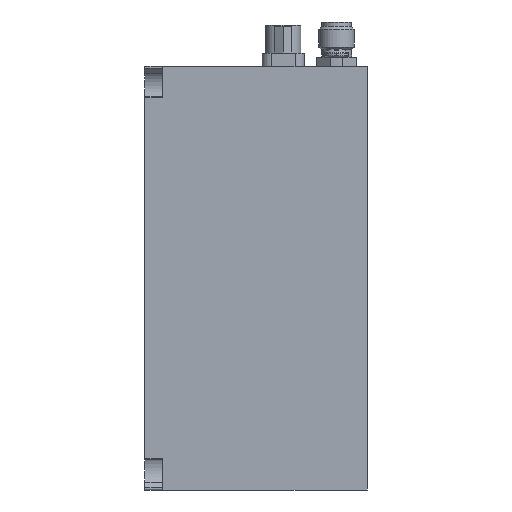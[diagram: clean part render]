
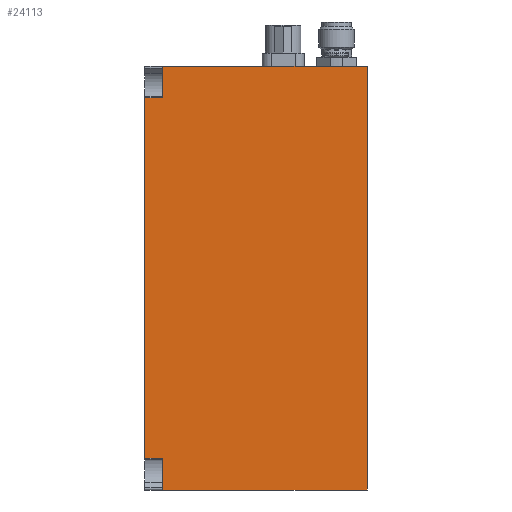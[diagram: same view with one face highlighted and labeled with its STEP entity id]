
A CAD part, left-side view. The second image highlights one B-rep face of the part: STEP entity #24113.
In plain terms, the highlighted planar face has unit normal (-1, 0, 0).
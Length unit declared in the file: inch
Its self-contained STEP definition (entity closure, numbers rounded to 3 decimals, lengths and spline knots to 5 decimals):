
#562 = ORIENTED_EDGE ( 'NONE', *, *, #32746, .T. ) ;
#1117 = DIRECTION ( 'NONE',  ( 0., -1., 0. ) ) ;
#1180 = ORIENTED_EDGE ( 'NONE', *, *, #22560, .F. ) ;
#2086 = EDGE_CURVE ( 'NONE', #38102, #14548, #28761, .T. ) ;
#3045 = DIRECTION ( 'NONE',  ( 0., 0., 1. ) ) ;
#3397 = VECTOR ( 'NONE', #1117, 39.37008 ) ;
#3414 = VERTEX_POINT ( 'NONE', #8320 ) ;
#3983 = CARTESIAN_POINT ( 'NONE',  ( -1., 0., -1.5 ) ) ;
#4357 = VECTOR ( 'NONE', #33591, 39.37008 ) ;
#5112 = CARTESIAN_POINT ( 'NONE',  ( -1., 1.44887, 1.27698 ) ) ;
#5923 = EDGE_CURVE ( 'NONE', #26700, #12562, #37219, .T. ) ;
#8320 = CARTESIAN_POINT ( 'NONE',  ( -1., 1.44887, 1.27698 ) ) ;
#8328 = VECTOR ( 'NONE', #33955, 39.37008 ) ;
#9280 = CARTESIAN_POINT ( 'NONE',  ( -1., 1.44887, -1.27698 ) ) ;
#11861 = EDGE_CURVE ( 'NONE', #28624, #12562, #21829, .T. ) ;
#12562 = VERTEX_POINT ( 'NONE', #29430 ) ;
#12679 = LINE ( 'NONE', #42842, #3397 ) ;
#13684 = ORIENTED_EDGE ( 'NONE', *, *, #22197, .F. ) ;
#14548 = VERTEX_POINT ( 'NONE', #37869 ) ;
#16171 = EDGE_CURVE ( 'NONE', #3414, #39337, #36081, .T. ) ;
#16505 = LINE ( 'NONE', #20433, #33885 ) ;
#16589 = PLANE ( 'NONE',  #44973 ) ;
#18252 = CARTESIAN_POINT ( 'NONE',  ( -1., 1.57487, 1.27698 ) ) ;
#20246 = DIRECTION ( 'NONE',  ( 1., 0., 0. ) ) ;
#20433 = CARTESIAN_POINT ( 'NONE',  ( -1., 1.57487, -1.5 ) ) ;
#20845 = CARTESIAN_POINT ( 'NONE',  ( -1., 0., -1.5 ) ) ;
#21829 = LINE ( 'NONE', #37623, #26755 ) ;
#22197 = EDGE_CURVE ( 'NONE', #40750, #39337, #16505, .T. ) ;
#22560 = EDGE_CURVE ( 'NONE', #14548, #40750, #41443, .T. ) ;
#22589 = DIRECTION ( 'NONE',  ( 0., 0., 1. ) ) ;
#22998 = CARTESIAN_POINT ( 'NONE',  ( -1., 1.44887, -1.5 ) ) ;
#23719 = DIRECTION ( 'NONE',  ( 0., -1., 0. ) ) ;
#24113 = ADVANCED_FACE ( 'NONE', ( #42636 ), #16589, .F. ) ;
#24318 = DIRECTION ( 'NONE',  ( 0., 0., 1. ) ) ;
#24890 = ORIENTED_EDGE ( 'NONE', *, *, #29854, .F. ) ;
#25342 = CARTESIAN_POINT ( 'NONE',  ( -1., 1.44887, -1.5 ) ) ;
#26700 = VERTEX_POINT ( 'NONE', #3983 ) ;
#26755 = VECTOR ( 'NONE', #23719, 39.37008 ) ;
#27655 = VECTOR ( 'NONE', #22589, 39.37008 ) ;
#27950 = VECTOR ( 'NONE', #24318, 39.37008 ) ;
#27969 = CARTESIAN_POINT ( 'NONE',  ( -1., 1.57487, -1.27698 ) ) ;
#28624 = VERTEX_POINT ( 'NONE', #30884 ) ;
#28761 = LINE ( 'NONE', #22998, #38047 ) ;
#29430 = CARTESIAN_POINT ( 'NONE',  ( -1., 0., 1.5 ) ) ;
#29514 = ORIENTED_EDGE ( 'NONE', *, *, #16171, .T. ) ;
#29854 = EDGE_CURVE ( 'NONE', #3414, #28624, #36913, .T. ) ;
#30430 = CARTESIAN_POINT ( 'NONE',  ( -1., 1.44887, 1.27698 ) ) ;
#30884 = CARTESIAN_POINT ( 'NONE',  ( -1., 1.44887, 1.5 ) ) ;
#32746 = EDGE_CURVE ( 'NONE', #38102, #26700, #12679, .T. ) ;
#33591 = DIRECTION ( 'NONE',  ( 0., 1., 0. ) ) ;
#33885 = VECTOR ( 'NONE', #3045, 39.37008 ) ;
#33955 = DIRECTION ( 'NONE',  ( 0., 1., 0. ) ) ;
#34873 = EDGE_LOOP ( 'NONE', ( #29514, #13684, #1180, #44962, #562, #44874, #36229, #24890 ) ) ;
#36081 = LINE ( 'NONE', #30430, #8328 ) ;
#36229 = ORIENTED_EDGE ( 'NONE', *, *, #11861, .F. ) ;
#36913 = LINE ( 'NONE', #5112, #27655 ) ;
#37219 = LINE ( 'NONE', #20845, #27950 ) ;
#37623 = CARTESIAN_POINT ( 'NONE',  ( -1., 1.57487, 1.5 ) ) ;
#37869 = CARTESIAN_POINT ( 'NONE',  ( -1., 1.44887, -1.27698 ) ) ;
#38047 = VECTOR ( 'NONE', #43899, 39.37008 ) ;
#38102 = VERTEX_POINT ( 'NONE', #25342 ) ;
#39337 = VERTEX_POINT ( 'NONE', #18252 ) ;
#40750 = VERTEX_POINT ( 'NONE', #27969 ) ;
#41078 = CARTESIAN_POINT ( 'NONE',  ( -1., 1.57487, -1.5 ) ) ;
#41443 = LINE ( 'NONE', #9280, #4357 ) ;
#42636 = FACE_OUTER_BOUND ( 'NONE', #34873, .T. ) ;
#42842 = CARTESIAN_POINT ( 'NONE',  ( -1., 1.57487, -1.5 ) ) ;
#43899 = DIRECTION ( 'NONE',  ( 0., 0., 1. ) ) ;
#44591 = DIRECTION ( 'NONE',  ( 0., 0., -1. ) ) ;
#44874 = ORIENTED_EDGE ( 'NONE', *, *, #5923, .T. ) ;
#44962 = ORIENTED_EDGE ( 'NONE', *, *, #2086, .F. ) ;
#44973 = AXIS2_PLACEMENT_3D ( 'NONE', #41078, #20246, #44591 ) ;
